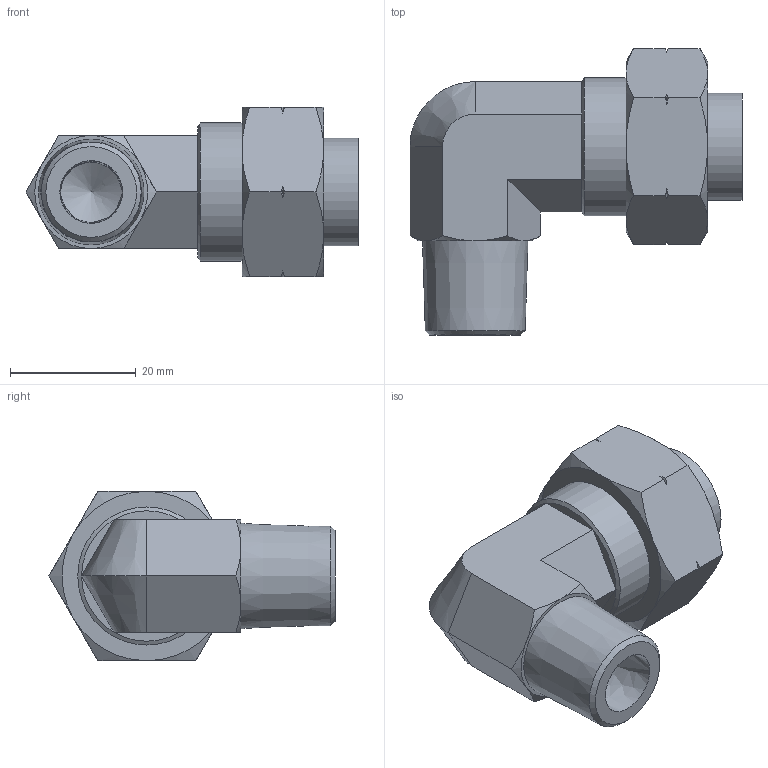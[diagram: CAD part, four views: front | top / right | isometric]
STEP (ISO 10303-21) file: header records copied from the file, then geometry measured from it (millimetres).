
FILE_DESCRIPTION((''),'2;1');
FILE_NAME('D:\INVENTOR\[New Inventor]\CDC Products 3D Ass''y\Two-Touch Fittings\Metric\CL\CL16-12--03.stp','2009-02-23T16:33:35',('Microsoft'),(''),'Autodesk Inventor 2008','Autodesk Inventor 2008','');
FILE_SCHEMA(('AUTOMOTIVE_DESIGN { 1 0 10303 214 1 1 1 1 }'));
Length unit declared in the file: millimetre
Products named in the file (1): CL16-12--03
Bounding box: 52.9 x 45.59 x 27 mm (x, y, z)
Volume: 15546.4 mm3; surface area: 9394.1 mm2
Topology: 1 solids, 1 shells, 72 faces, 161 edges, 95 vertices
Faces by surface type: cone 33, plane 29, cylinder 5, bspline 4, torus 1
Full cylindrical faces by diameter (mm): 10 x1, 11.8 x1, 16.2 x1, 17.1 x1, 22 x1
Entity records: 1938 total; most frequent: CARTESIAN_POINT 542, ORIENTED_EDGE 294, DIRECTION 272, EDGE_CURVE 147, AXIS2_PLACEMENT_3D 118, VERTEX_POINT 92, EDGE_LOOP 89, FACE_OUTER_BOUND 72
